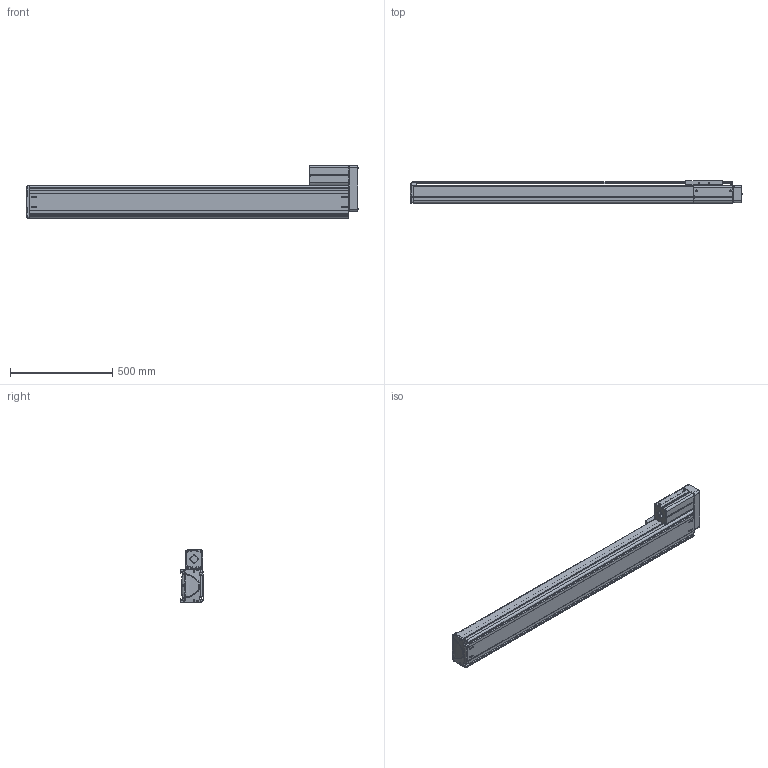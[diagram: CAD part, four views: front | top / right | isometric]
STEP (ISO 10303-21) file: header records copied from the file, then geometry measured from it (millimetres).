
FILE_DESCRIPTION((''),'2;1');
FILE_NAME('BE50F-UR-M_B-D0_IGS_PRT','2017-06-18T',(' '),(''),'PRO/ENGINEER BY PARAMETRIC TECHNOLOGY CORPORATION, 2015030','PRO/ENGINEER BY PARAMETRIC TECHNOLOGY CORPORATION, 2015030','');
FILE_SCHEMA(('CONFIG_CONTROL_DESIGN'));
Length unit declared in the file: millimetre
Products named in the file (1): BE50F-UR-M_B-D0_IGS_PRT
Bounding box: 1625.88 x 110 x 257 mm (x, y, z)
Volume: 6297285.3 mm3; surface area: 2694298.9 mm2
Topology: 7 solids, 155 shells, 2308 faces, 6334 edges, 4155 vertices
Faces by surface type: cylinder 1018, plane 1010, cone 141, torus 59, bspline 48, sphere 32
Entity records: 77062 total; most frequent: CARTESIAN_POINT 17837, DIRECTION 12327, ORIENTED_EDGE 12055, EDGE_CURVE 6296, AXIS2_PLACEMENT_3D 4410, VERTEX_POINT 4151, VECTOR 3507, LINE 3507
